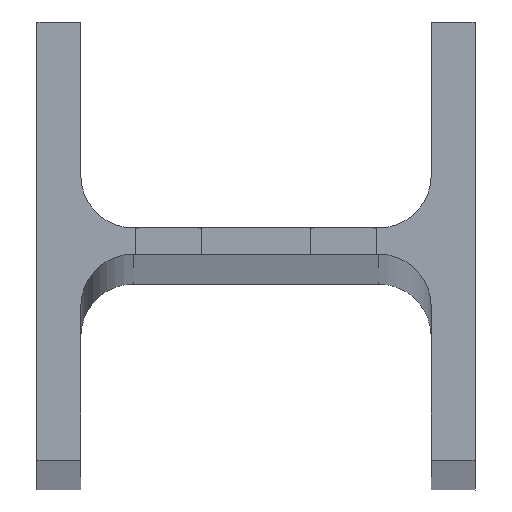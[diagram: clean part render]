
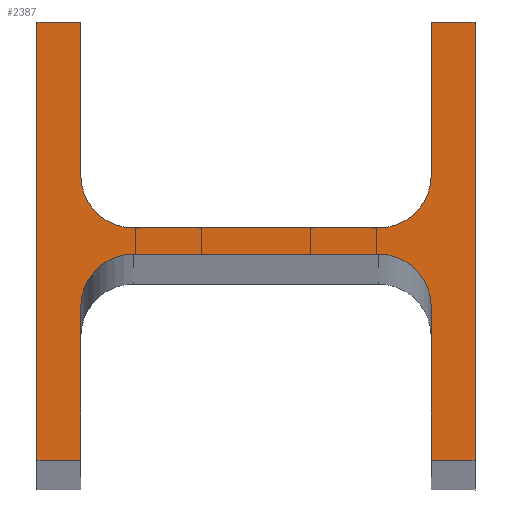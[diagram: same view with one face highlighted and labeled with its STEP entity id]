
A CAD part, top view. The second image highlights one B-rep face of the part: STEP entity #2387.
In plain terms, the highlighted planar face has unit normal (0, 0, 1).
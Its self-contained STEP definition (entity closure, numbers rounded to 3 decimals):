
#18 = VERTEX_POINT ( 'NONE', #1875 ) ;
#96 = CIRCLE ( 'NONE', #4019, 12. ) ;
#101 = LINE ( 'NONE', #477, #649 ) ;
#165 = VECTOR ( 'NONE', #905, 1000. ) ;
#193 = CARTESIAN_POINT ( 'NONE',  ( -40., -50., 3920. ) ) ;
#251 = LINE ( 'NONE', #3749, #1671 ) ;
#258 = VERTEX_POINT ( 'NONE', #362 ) ;
#362 = CARTESIAN_POINT ( 'NONE',  ( 40., 15., 3920. ) ) ;
#394 = EDGE_CURVE ( 'NONE', #2459, #1775, #513, .T. ) ;
#397 = LINE ( 'NONE', #1408, #1129 ) ;
#441 = EDGE_CURVE ( 'NONE', #258, #3026, #3929, .T. ) ;
#477 = CARTESIAN_POINT ( 'NONE',  ( -28., 3., 3920. ) ) ;
#489 = DIRECTION ( 'NONE',  ( -1., 0., 0. ) ) ;
#495 = CARTESIAN_POINT ( 'NONE',  ( 40., -50., 3920. ) ) ;
#504 = EDGE_CURVE ( 'NONE', #4188, #18, #251, .T. ) ;
#513 = LINE ( 'NONE', #3249, #165 ) ;
#566 = ORIENTED_EDGE ( 'NONE', *, *, #612, .F. ) ;
#581 = ORIENTED_EDGE ( 'NONE', *, *, #1094, .F. ) ;
#612 = EDGE_CURVE ( 'NONE', #3370, #907, #4001, .T. ) ;
#639 = DIRECTION ( 'NONE',  ( -1., 0., 0. ) ) ;
#649 = VECTOR ( 'NONE', #2340, 1000. ) ;
#705 = ORIENTED_EDGE ( 'NONE', *, *, #2872, .F. ) ;
#715 = CARTESIAN_POINT ( 'NONE',  ( 28., -15., 3920. ) ) ;
#770 = ORIENTED_EDGE ( 'NONE', *, *, #2646, .F. ) ;
#817 = PLANE ( 'NONE',  #2435 ) ;
#849 = EDGE_LOOP ( 'NONE', ( #2996, #1581, #3360, #581, #3940, #3252, #566, #770, #2200, #1882, #3432, #2982, #3309, #2470, #705, #1091 ) ) ;
#866 = DIRECTION ( 'NONE',  ( 0., 0., 1. ) ) ;
#904 = DIRECTION ( 'NONE',  ( 1., 0., 0. ) ) ;
#905 = DIRECTION ( 'NONE',  ( -1., 0., 0. ) ) ;
#907 = VERTEX_POINT ( 'NONE', #2818 ) ;
#966 = VERTEX_POINT ( 'NONE', #2548 ) ;
#999 = AXIS2_PLACEMENT_3D ( 'NONE', #3810, #866, #2767 ) ;
#1030 = LINE ( 'NONE', #2046, #2244 ) ;
#1039 = EDGE_CURVE ( 'NONE', #907, #4017, #3356, .T. ) ;
#1047 = DIRECTION ( 'NONE',  ( 0., 1., 0. ) ) ;
#1091 = ORIENTED_EDGE ( 'NONE', *, *, #504, .F. ) ;
#1094 = EDGE_CURVE ( 'NONE', #3659, #2459, #4229, .T. ) ;
#1129 = VECTOR ( 'NONE', #1478, 1000. ) ;
#1401 = VECTOR ( 'NONE', #1744, 1000. ) ;
#1408 = CARTESIAN_POINT ( 'NONE',  ( -40., -15., 3920. ) ) ;
#1478 = DIRECTION ( 'NONE',  ( 0., -1., 0. ) ) ;
#1530 = CARTESIAN_POINT ( 'NONE',  ( -40., 15., 3920. ) ) ;
#1545 = CARTESIAN_POINT ( 'NONE',  ( 40., -15., 3920. ) ) ;
#1562 = EDGE_CURVE ( 'NONE', #1694, #4188, #397, .T. ) ;
#1575 = LINE ( 'NONE', #1915, #3129 ) ;
#1581 = ORIENTED_EDGE ( 'NONE', *, *, #4238, .F. ) ;
#1635 = CARTESIAN_POINT ( 'NONE',  ( 28., -3., 3920. ) ) ;
#1661 = CARTESIAN_POINT ( 'NONE',  ( -40., 50., 3920. ) ) ;
#1671 = VECTOR ( 'NONE', #4184, 1000. ) ;
#1694 = VERTEX_POINT ( 'NONE', #3826 ) ;
#1744 = DIRECTION ( 'NONE',  ( 0., -1., 0. ) ) ;
#1745 = VERTEX_POINT ( 'NONE', #2973 ) ;
#1775 = VERTEX_POINT ( 'NONE', #2254 ) ;
#1875 = CARTESIAN_POINT ( 'NONE',  ( -50., -50., 3920. ) ) ;
#1882 = ORIENTED_EDGE ( 'NONE', *, *, #2703, .F. ) ;
#1915 = CARTESIAN_POINT ( 'NONE',  ( 40., 50., 3920. ) ) ;
#1946 = EDGE_CURVE ( 'NONE', #966, #1745, #1030, .T. ) ;
#1969 = VERTEX_POINT ( 'NONE', #2341 ) ;
#1987 = DIRECTION ( 'NONE',  ( 0., -1., 0. ) ) ;
#2024 = VECTOR ( 'NONE', #2953, 1000. ) ;
#2046 = CARTESIAN_POINT ( 'NONE',  ( -50., 50., 3920. ) ) ;
#2105 = CARTESIAN_POINT ( 'NONE',  ( -28., 3., 3920. ) ) ;
#2114 = DIRECTION ( 'NONE',  ( 1., 0., 0. ) ) ;
#2126 = DIRECTION ( 'NONE',  ( 0., 1., 0. ) ) ;
#2161 = FACE_OUTER_BOUND ( 'NONE', #849, .T. ) ;
#2200 = ORIENTED_EDGE ( 'NONE', *, *, #441, .F. ) ;
#2203 = CARTESIAN_POINT ( 'NONE',  ( 40., 15., 3920. ) ) ;
#2230 = CARTESIAN_POINT ( 'NONE',  ( 40., 50., 3920. ) ) ;
#2244 = VECTOR ( 'NONE', #2114, 1000. ) ;
#2251 = LINE ( 'NONE', #2608, #2024 ) ;
#2254 = CARTESIAN_POINT ( 'NONE',  ( -28., -3., 3920. ) ) ;
#2340 = DIRECTION ( 'NONE',  ( 1., 0., 0. ) ) ;
#2341 = CARTESIAN_POINT ( 'NONE',  ( 28., 3., 3920. ) ) ;
#2387 = ADVANCED_FACE ( 'NONE', ( #2161 ), #817, .F. ) ;
#2435 = AXIS2_PLACEMENT_3D ( 'NONE', #3741, #2841, #3467 ) ;
#2459 = VERTEX_POINT ( 'NONE', #1635 ) ;
#2464 = DIRECTION ( 'NONE',  ( -1., 0., 0. ) ) ;
#2470 = ORIENTED_EDGE ( 'NONE', *, *, #1946, .F. ) ;
#2515 = VECTOR ( 'NONE', #1987, 1000. ) ;
#2548 = CARTESIAN_POINT ( 'NONE',  ( -50., 50., 3920. ) ) ;
#2592 = VECTOR ( 'NONE', #1047, 1000. ) ;
#2608 = CARTESIAN_POINT ( 'NONE',  ( -50., -50., 3920. ) ) ;
#2646 = EDGE_CURVE ( 'NONE', #3026, #3370, #1575, .T. ) ;
#2702 = CARTESIAN_POINT ( 'NONE',  ( 40., -50., 3920. ) ) ;
#2703 = EDGE_CURVE ( 'NONE', #1969, #258, #4232, .T. ) ;
#2707 = AXIS2_PLACEMENT_3D ( 'NONE', #3933, #3578, #639 ) ;
#2715 = CIRCLE ( 'NONE', #999, 12. ) ;
#2751 = EDGE_CURVE ( 'NONE', #1745, #4006, #2976, .T. ) ;
#2767 = DIRECTION ( 'NONE',  ( -1., 0., 0. ) ) ;
#2774 = VECTOR ( 'NONE', #2126, 1000. ) ;
#2818 = CARTESIAN_POINT ( 'NONE',  ( 50., -50., 3920. ) ) ;
#2841 = DIRECTION ( 'NONE',  ( 0., 0., -1. ) ) ;
#2872 = EDGE_CURVE ( 'NONE', #18, #966, #2251, .T. ) ;
#2953 = DIRECTION ( 'NONE',  ( 0., 1., 0. ) ) ;
#2970 = EDGE_CURVE ( 'NONE', #3275, #1969, #101, .T. ) ;
#2973 = CARTESIAN_POINT ( 'NONE',  ( -40., 50., 3920. ) ) ;
#2976 = LINE ( 'NONE', #1661, #2515 ) ;
#2982 = ORIENTED_EDGE ( 'NONE', *, *, #3646, .F. ) ;
#2996 = ORIENTED_EDGE ( 'NONE', *, *, #1562, .F. ) ;
#3007 = LINE ( 'NONE', #2702, #2592 ) ;
#3026 = VERTEX_POINT ( 'NONE', #2230 ) ;
#3041 = CARTESIAN_POINT ( 'NONE',  ( 50., -50., 3920. ) ) ;
#3129 = VECTOR ( 'NONE', #904, 1000. ) ;
#3236 = CARTESIAN_POINT ( 'NONE',  ( 50., 50., 3920. ) ) ;
#3249 = CARTESIAN_POINT ( 'NONE',  ( 28., -3., 3920. ) ) ;
#3252 = ORIENTED_EDGE ( 'NONE', *, *, #1039, .F. ) ;
#3275 = VERTEX_POINT ( 'NONE', #2105 ) ;
#3278 = DIRECTION ( 'NONE',  ( 0., 0., 1. ) ) ;
#3309 = ORIENTED_EDGE ( 'NONE', *, *, #2751, .F. ) ;
#3356 = LINE ( 'NONE', #3041, #3386 ) ;
#3360 = ORIENTED_EDGE ( 'NONE', *, *, #394, .F. ) ;
#3370 = VERTEX_POINT ( 'NONE', #3236 ) ;
#3386 = VECTOR ( 'NONE', #489, 1000. ) ;
#3432 = ORIENTED_EDGE ( 'NONE', *, *, #2970, .F. ) ;
#3467 = DIRECTION ( 'NONE',  ( -1., 0., 0. ) ) ;
#3541 = AXIS2_PLACEMENT_3D ( 'NONE', #715, #3278, #2464 ) ;
#3542 = DIRECTION ( 'NONE',  ( -1., 0., 0. ) ) ;
#3578 = DIRECTION ( 'NONE',  ( 0., 0., 1. ) ) ;
#3590 = CARTESIAN_POINT ( 'NONE',  ( -28., 15., 3920. ) ) ;
#3646 = EDGE_CURVE ( 'NONE', #4006, #3275, #96, .T. ) ;
#3659 = VERTEX_POINT ( 'NONE', #1545 ) ;
#3720 = CARTESIAN_POINT ( 'NONE',  ( 50., 50., 3920. ) ) ;
#3741 = CARTESIAN_POINT ( 'NONE',  ( -44.5, 14., 3920. ) ) ;
#3749 = CARTESIAN_POINT ( 'NONE',  ( -40., -50., 3920. ) ) ;
#3810 = CARTESIAN_POINT ( 'NONE',  ( -28., -15., 3920. ) ) ;
#3826 = CARTESIAN_POINT ( 'NONE',  ( -40., -15., 3920. ) ) ;
#3892 = DIRECTION ( 'NONE',  ( 0., 0., 1. ) ) ;
#3929 = LINE ( 'NONE', #2203, #2774 ) ;
#3933 = CARTESIAN_POINT ( 'NONE',  ( 28., 15., 3920. ) ) ;
#3940 = ORIENTED_EDGE ( 'NONE', *, *, #4027, .F. ) ;
#4001 = LINE ( 'NONE', #3720, #1401 ) ;
#4006 = VERTEX_POINT ( 'NONE', #1530 ) ;
#4017 = VERTEX_POINT ( 'NONE', #495 ) ;
#4019 = AXIS2_PLACEMENT_3D ( 'NONE', #3590, #3892, #3542 ) ;
#4027 = EDGE_CURVE ( 'NONE', #4017, #3659, #3007, .T. ) ;
#4184 = DIRECTION ( 'NONE',  ( -1., 0., 0. ) ) ;
#4188 = VERTEX_POINT ( 'NONE', #193 ) ;
#4229 = CIRCLE ( 'NONE', #3541, 12. ) ;
#4232 = CIRCLE ( 'NONE', #2707, 12. ) ;
#4238 = EDGE_CURVE ( 'NONE', #1775, #1694, #2715, .T. ) ;
